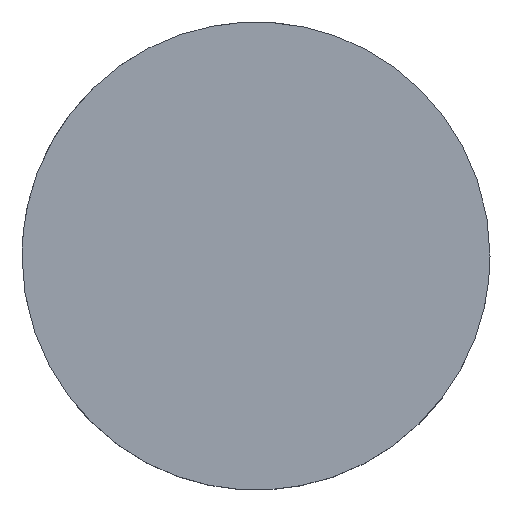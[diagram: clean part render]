
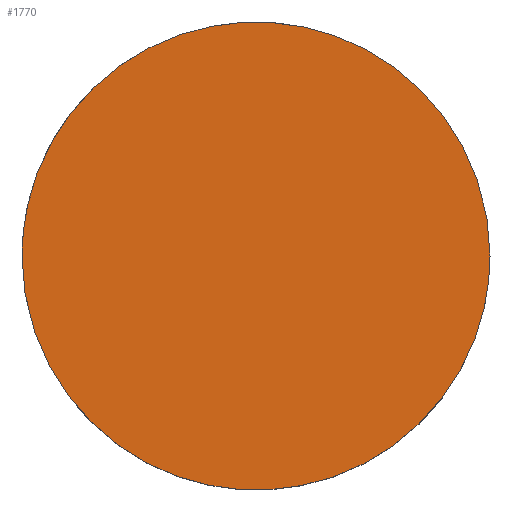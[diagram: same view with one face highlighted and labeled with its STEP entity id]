
A CAD part, top view. The second image highlights one B-rep face of the part: STEP entity #1770.
In plain terms, the highlighted planar face has unit normal (0, 0, 1).
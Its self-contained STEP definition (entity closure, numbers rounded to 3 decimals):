
#190 = CARTESIAN_POINT ('', (-6.25, 0., -22.354));
#200 = VERTEX_POINT ('', #190);
#260 = CARTESIAN_POINT ('', (6.25, 0., -22.354));
#270 = VERTEX_POINT ('', #260);
#280 = CARTESIAN_POINT ('', (6.25, 0., -22.354));
#290 = CARTESIAN_POINT ('', (6.25, 6.25, -22.354));
#300 = CARTESIAN_POINT ('', (0., 6.25, -22.354));
#310 = CARTESIAN_POINT ('', (-6.25, 6.25, -22.354));
#320 = CARTESIAN_POINT ('', (-6.25, 0., -22.354));
#330 = (
   BOUNDED_CURVE ()
   B_SPLINE_CURVE (2, (#280, #290, #300, #310, #320), .UNSPECIFIED., .F., .U.)
   B_SPLINE_CURVE_WITH_KNOTS ((3, 2, 3), (0., 1.571, 3.142), .UNSPECIFIED.)
   CURVE ()
   GEOMETRIC_REPRESENTATION_ITEM ()
   RATIONAL_B_SPLINE_CURVE ((1., 0.707, 1., 0.707, 1.))
   REPRESENTATION_ITEM ('')
);
#340 = EDGE_CURVE ('', #270, #200, #330, .T.);
#580 = CARTESIAN_POINT ('', (-6.25, 0., -22.354));
#590 = CARTESIAN_POINT ('', (-6.25, -6.25, -22.354));
#600 = CARTESIAN_POINT ('', (0., -6.25, -22.354));
#610 = CARTESIAN_POINT ('', (6.25, -6.25, -22.354));
#620 = CARTESIAN_POINT ('', (6.25, 0., -22.354));
#630 = (
   BOUNDED_CURVE ()
   B_SPLINE_CURVE (2, (#580, #590, #600, #610, #620), .UNSPECIFIED., .F., .U.)
   B_SPLINE_CURVE_WITH_KNOTS ((3, 2, 3), (3.142, 4.712, 6.283), .UNSPECIFIED.)
   CURVE ()
   GEOMETRIC_REPRESENTATION_ITEM ()
   RATIONAL_B_SPLINE_CURVE ((1., 0.707, 1., 0.707, 1.))
   REPRESENTATION_ITEM ('')
);
#640 = EDGE_CURVE ('', #200, #270, #630, .T.);
#1680 = ORIENTED_EDGE ('', *, *, #340, .T.);
#1690 = ORIENTED_EDGE ('', *, *, #640, .T.);
#1700 = EDGE_LOOP ('', (#1680, #1690));
#1710 = FACE_OUTER_BOUND ('', #1700, .T.);
#1720 = CARTESIAN_POINT ('', (0., 12.954, -22.354));
#1730 = DIRECTION ('', (0., 0., 1.));
#1740 = DIRECTION ('', (-0.707, -0.707, 0.));
#1750 = AXIS2_PLACEMENT_3D ('', #1720, #1730, #1740);
#1760 = PLANE ('', #1750);
#1770 = ADVANCED_FACE ('', (#1710), #1760, .T.);
